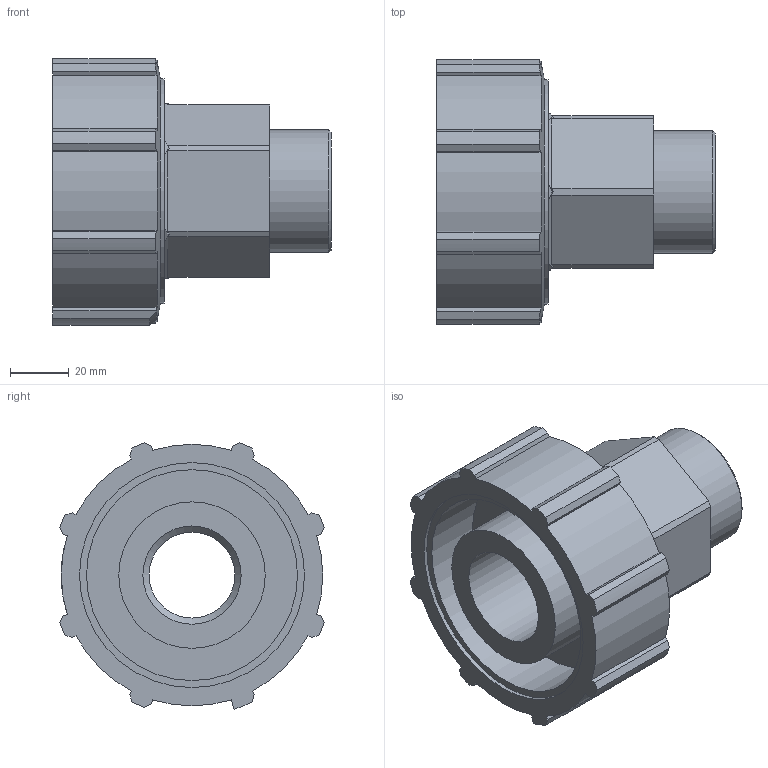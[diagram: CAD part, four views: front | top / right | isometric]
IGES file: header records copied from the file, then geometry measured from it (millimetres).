
Global section: file name: 072700050013_182700050013_72706050013.ipt; native system: Autodesk Inventor 2015; preprocessor: unknown; author: KIM; date: 20170606.172347; units: millimetre
Bounding box: 95 x 90.33 x 90.94 mm (x, y, z)
Volume: 219256.1 mm3; surface area: 55096.9 mm2
Topology: 1 solids, 1 shells, 92 faces, 258 edges, 174 vertices
Faces by surface type: plane 63, cylinder 20, revolution 6, cone 3
Full cylindrical faces by diameter (mm): 41.91 x1, 50 x1, 59.8 x1, 76.8 x1
